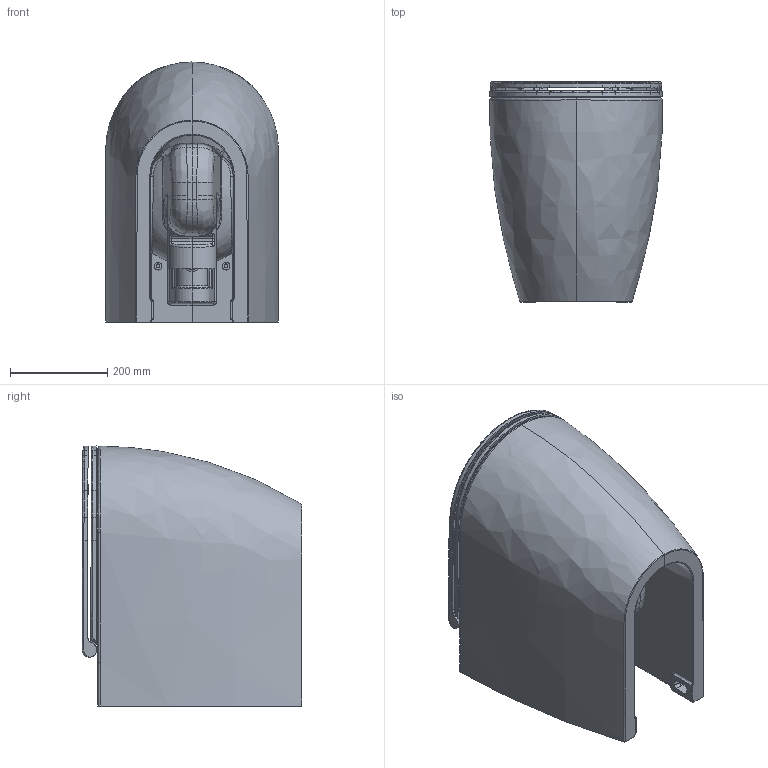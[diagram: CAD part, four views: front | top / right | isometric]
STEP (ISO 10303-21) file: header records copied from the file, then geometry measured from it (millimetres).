
FILE_DESCRIPTION (( 'STEP AP203' ), '1' );
FILE_NAME ('CMVCTTE0000G.STEP', '2024-01-17T10:35:47', ( '' ), ( '' ), 'SwSTEP 2.0', 'SolidWorks 2023', '' );
FILE_SCHEMA (( 'CONFIG_CONTROL_DESIGN' ));
Length unit declared in the file: millimetre
Products named in the file (6): CMVCTTE0000G antigocia traslato; CPWR COMODA COPERCHIO; CMVCTTE0000G; cerniera ESAGONALE; CPWR COMODA CIAMBELLA; Assieme CPWTR COMODA
Assembly tree (6 placements, depth 3):
  CMVCTTE0000G
    CMVCTTE0000G antigocia traslato
    Assieme CPWTR COMODA
      CPWR COMODA CIAMBELLA
      CPWR COMODA COPERCHIO
      cerniera ESAGONALE  x2
Bounding box: 355.71 x 452.78 x 535.25 mm (x, y, z)
Volume: 13199172.7 mm3; surface area: 2936170.5 mm2
Topology: 5 solids, 7 shells, 1052 faces, 2709 edges, 1636 vertices
Faces by surface type: bspline 555, cylinder 186, plane 174, cone 57, torus 52, sphere 28
Full cylindrical faces by diameter (mm): 8 x44, 12 x4, 16 x4, 16.32 x4, 30 x2
Entity records: 168397 total; most frequent: CARTESIAN_POINT 148498, ORIENTED_EDGE 4943, DIRECTION 2741, EDGE_CURVE 2472, VERTEX_POINT 1527, B_SPLINE_CURVE_WITH_KNOTS 1198, AXIS2_PLACEMENT_3D 1124, EDGE_LOOP 1044
